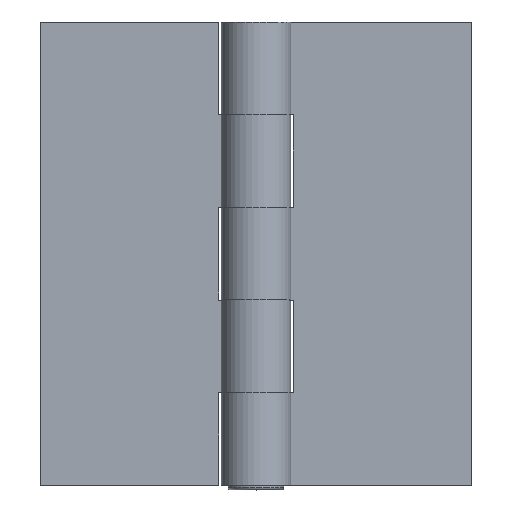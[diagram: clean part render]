
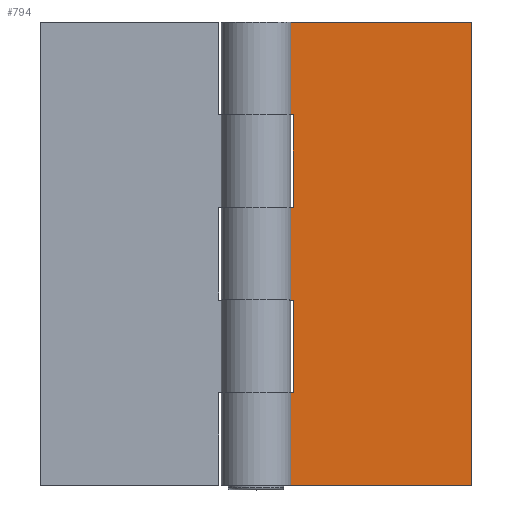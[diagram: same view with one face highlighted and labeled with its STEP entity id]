
A CAD part, top view. The second image highlights one B-rep face of the part: STEP entity #794.
In plain terms, the highlighted planar face has unit normal (0, 0, 1) as drawn and (0, 1, 0) by its records, which use the part's own axes.
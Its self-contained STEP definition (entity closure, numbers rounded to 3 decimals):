
#80=FACE_OUTER_BOUND('',#125,.T.);
#125=EDGE_LOOP('',(#683,#684,#685,#686,#687,#688,#689,#690,#691,#692,#693,
#694));
#185=LINE('',#1229,#267);
#188=LINE('',#1242,#270);
#191=LINE('',#1247,#273);
#195=LINE('',#1258,#277);
#198=LINE('',#1271,#280);
#201=LINE('',#1276,#283);
#214=LINE('',#1303,#296);
#215=LINE('',#1306,#297);
#217=LINE('',#1311,#299);
#219=LINE('',#1315,#301);
#220=LINE('',#1316,#302);
#221=LINE('',#1317,#303);
#267=VECTOR('',#988,8.);
#270=VECTOR('',#999,8.);
#273=VECTOR('',#1004,20.);
#277=VECTOR('',#1012,8.);
#280=VECTOR('',#1023,8.);
#283=VECTOR('',#1028,20.);
#296=VECTOR('',#1055,20.);
#297=VECTOR('',#1060,20.);
#299=VECTOR('',#1064,100.);
#301=VECTOR('',#1068,20.);
#302=VECTOR('',#1069,46.5);
#303=VECTOR('',#1070,46.5);
#368=VERTEX_POINT('',#1226);
#369=VERTEX_POINT('',#1228);
#374=VERTEX_POINT('',#1239);
#375=VERTEX_POINT('',#1241);
#380=VERTEX_POINT('',#1255);
#381=VERTEX_POINT('',#1257);
#386=VERTEX_POINT('',#1268);
#387=VERTEX_POINT('',#1270);
#395=VERTEX_POINT('',#1302);
#396=VERTEX_POINT('',#1308);
#397=VERTEX_POINT('',#1310);
#398=VERTEX_POINT('',#1314);
#458=EDGE_CURVE('',#369,#368,#185,.T.);
#464=EDGE_CURVE('',#375,#374,#188,.T.);
#467=EDGE_CURVE('',#368,#375,#191,.T.);
#472=EDGE_CURVE('',#381,#380,#195,.T.);
#478=EDGE_CURVE('',#387,#386,#198,.T.);
#481=EDGE_CURVE('',#380,#387,#201,.T.);
#495=EDGE_CURVE('',#381,#395,#214,.T.);
#497=EDGE_CURVE('',#369,#386,#215,.T.);
#499=EDGE_CURVE('',#397,#396,#217,.T.);
#501=EDGE_CURVE('',#398,#374,#219,.T.);
#502=EDGE_CURVE('',#398,#397,#220,.T.);
#503=EDGE_CURVE('',#396,#395,#221,.T.);
#683=ORIENTED_EDGE('',*,*,#464,.T.);
#684=ORIENTED_EDGE('',*,*,#501,.F.);
#685=ORIENTED_EDGE('',*,*,#502,.T.);
#686=ORIENTED_EDGE('',*,*,#499,.T.);
#687=ORIENTED_EDGE('',*,*,#503,.T.);
#688=ORIENTED_EDGE('',*,*,#495,.F.);
#689=ORIENTED_EDGE('',*,*,#472,.T.);
#690=ORIENTED_EDGE('',*,*,#481,.T.);
#691=ORIENTED_EDGE('',*,*,#478,.T.);
#692=ORIENTED_EDGE('',*,*,#497,.F.);
#693=ORIENTED_EDGE('',*,*,#458,.T.);
#694=ORIENTED_EDGE('',*,*,#467,.T.);
#755=PLANE('',#862);
#794=ADVANCED_FACE('',(#80),#755,.T.);
#862=AXIS2_PLACEMENT_3D('',#1313,#1066,#1067);
#988=DIRECTION('',(-1.,0.,0.));
#999=DIRECTION('',(1.,0.,0.));
#1004=DIRECTION('',(0.,0.,-1.));
#1012=DIRECTION('',(-1.,0.,0.));
#1023=DIRECTION('',(1.,0.,0.));
#1028=DIRECTION('',(0.,0.,-1.));
#1055=DIRECTION('',(0.,0.,1.));
#1060=DIRECTION('',(0.,0.,1.));
#1064=DIRECTION('',(0.,0.,1.));
#1066=DIRECTION('center_axis',(0.,1.,0.));
#1067=DIRECTION('ref_axis',(0.,0.,1.));
#1068=DIRECTION('',(0.,0.,1.));
#1069=DIRECTION('',(-1.,0.,0.));
#1070=DIRECTION('',(1.,0.,0.));
#1226=CARTESIAN_POINT('',(-8.,3.,-10.));
#1228=CARTESIAN_POINT('',(0.,3.,-10.));
#1229=CARTESIAN_POINT('',(-19.5,3.,-10.));
#1239=CARTESIAN_POINT('',(0.,3.,-30.));
#1241=CARTESIAN_POINT('',(-8.,3.,-30.));
#1242=CARTESIAN_POINT('',(-27.25,3.,-30.));
#1247=CARTESIAN_POINT('',(-8.,3.,-5.));
#1255=CARTESIAN_POINT('',(-8.,3.,30.));
#1257=CARTESIAN_POINT('',(0.,3.,30.));
#1258=CARTESIAN_POINT('',(-19.5,3.,30.));
#1268=CARTESIAN_POINT('',(0.,3.,10.));
#1270=CARTESIAN_POINT('',(-8.,3.,10.));
#1271=CARTESIAN_POINT('',(-27.25,3.,10.));
#1276=CARTESIAN_POINT('',(-8.,3.,15.));
#1302=CARTESIAN_POINT('',(0.,3.,50.));
#1303=CARTESIAN_POINT('',(0.,3.,0.));
#1306=CARTESIAN_POINT('',(0.,3.,0.));
#1308=CARTESIAN_POINT('',(-46.5,3.,50.));
#1310=CARTESIAN_POINT('',(-46.5,3.,-50.));
#1311=CARTESIAN_POINT('',(-46.5,3.,0.));
#1313=CARTESIAN_POINT('Origin',(-46.5,3.,0.));
#1314=CARTESIAN_POINT('',(0.,3.,-50.));
#1315=CARTESIAN_POINT('',(0.,3.,0.));
#1316=CARTESIAN_POINT('',(0.,3.,-50.));
#1317=CARTESIAN_POINT('',(0.,3.,50.));
